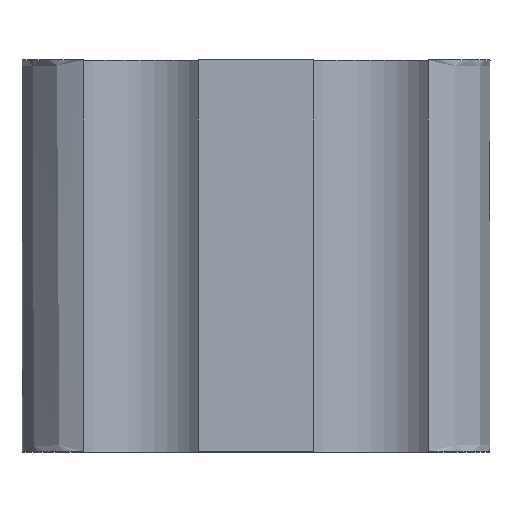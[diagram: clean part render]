
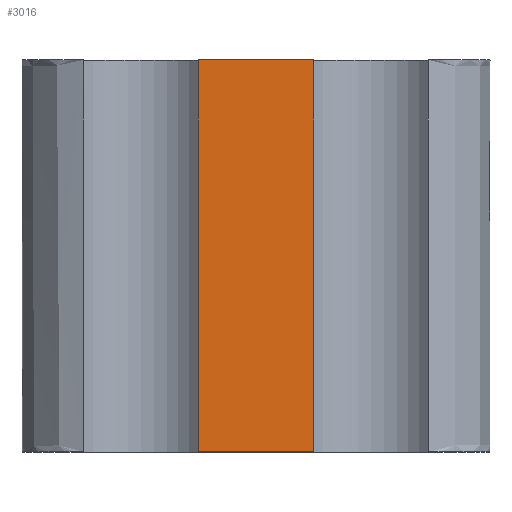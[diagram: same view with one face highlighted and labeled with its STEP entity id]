
A CAD part, top view. The second image highlights one B-rep face of the part: STEP entity #3016.
In plain terms, the highlighted planar face has unit normal (0, 0, 1).
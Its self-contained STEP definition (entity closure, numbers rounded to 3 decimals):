
#1904 = PLANE('',#1905);
#1905 = AXIS2_PLACEMENT_3D('',#1906,#1907,#1908);
#1906 = CARTESIAN_POINT('',(-21.978,0.,
    -32.23));
#1907 = DIRECTION('',(0.,-1.,0.));
#1908 = DIRECTION('',(-0.,0.,1.));
#1974 = PLANE('',#1975);
#1975 = AXIS2_PLACEMENT_3D('',#1976,#1977,#1978);
#1976 = CARTESIAN_POINT('',(-21.978,-15.,-32.23));
#1977 = DIRECTION('',(0.,1.,0.));
#1978 = DIRECTION('',(0.,0.,-1.));
#2346 = CYLINDRICAL_SURFACE('',#2347,2.85);
#2347 = AXIS2_PLACEMENT_3D('',#2348,#2349,#2350);
#2348 = CARTESIAN_POINT('',(-26.36,-7.5,-30.833));
#2349 = DIRECTION('',(0.,-1.,0.));
#2350 = DIRECTION('',(0.,0.,1.));
#2640 = CYLINDRICAL_SURFACE('',#2641,2.85);
#2641 = AXIS2_PLACEMENT_3D('',#2642,#2643,#2644);
#2642 = CARTESIAN_POINT('',(-17.56,-7.5,-30.833));
#2643 = DIRECTION('',(0.,-1.,0.));
#2644 = DIRECTION('',(0.,0.,1.));
#2817 = EDGE_CURVE('',#2818,#2820,#2822,.T.);
#2818 = VERTEX_POINT('',#2819);
#2819 = CARTESIAN_POINT('',(-24.172,0.,
    -29.007));
#2820 = VERTEX_POINT('',#2821);
#2821 = CARTESIAN_POINT('',(-19.749,0.,
    -29.007));
#2822 = SURFACE_CURVE('',#2823,(#2827,#2834),.PCURVE_S1.);
#2823 = LINE('',#2824,#2825);
#2824 = CARTESIAN_POINT('',(-24.172,0.,
    -29.007));
#2825 = VECTOR('',#2826,1.);
#2826 = DIRECTION('',(1.,0.,0.));
#2827 = PCURVE('',#1904,#2828);
#2828 = DEFINITIONAL_REPRESENTATION('',(#2829),#2833);
#2829 = LINE('',#2830,#2831);
#2830 = CARTESIAN_POINT('',(3.222,2.194));
#2831 = VECTOR('',#2832,1.);
#2832 = DIRECTION('',(0.,-1.));
#2833 = ( GEOMETRIC_REPRESENTATION_CONTEXT(2) 
PARAMETRIC_REPRESENTATION_CONTEXT() REPRESENTATION_CONTEXT('2D SPACE',''
  ) );
#2834 = PCURVE('',#2835,#2840);
#2835 = PLANE('',#2836);
#2836 = AXIS2_PLACEMENT_3D('',#2837,#2838,#2839);
#2837 = CARTESIAN_POINT('',(-21.96,-7.5,-29.007));
#2838 = DIRECTION('',(0.,0.,1.));
#2839 = DIRECTION('',(0.,1.,0.));
#2840 = DEFINITIONAL_REPRESENTATION('',(#2841),#2845);
#2841 = LINE('',#2842,#2843);
#2842 = CARTESIAN_POINT('',(7.5,2.212));
#2843 = VECTOR('',#2844,1.);
#2844 = DIRECTION('',(0.,-1.));
#2845 = ( GEOMETRIC_REPRESENTATION_CONTEXT(2) 
PARAMETRIC_REPRESENTATION_CONTEXT() REPRESENTATION_CONTEXT('2D SPACE',''
  ) );
#2967 = VERTEX_POINT('',#2968);
#2968 = CARTESIAN_POINT('',(-19.749,-15.,-29.007));
#2994 = EDGE_CURVE('',#2820,#2967,#2995,.T.);
#2995 = SURFACE_CURVE('',#2996,(#3000,#3007),.PCURVE_S1.);
#2996 = LINE('',#2997,#2998);
#2997 = CARTESIAN_POINT('',(-19.749,0.,
    -29.007));
#2998 = VECTOR('',#2999,1.);
#2999 = DIRECTION('',(0.,-1.,0.));
#3000 = PCURVE('',#2640,#3001);
#3001 = DEFINITIONAL_REPRESENTATION('',(#3002),#3006);
#3002 = LINE('',#3003,#3004);
#3003 = CARTESIAN_POINT('',(0.875,-7.5));
#3004 = VECTOR('',#3005,1.);
#3005 = DIRECTION('',(0.,1.));
#3006 = ( GEOMETRIC_REPRESENTATION_CONTEXT(2) 
PARAMETRIC_REPRESENTATION_CONTEXT() REPRESENTATION_CONTEXT('2D SPACE',''
  ) );
#3007 = PCURVE('',#2835,#3008);
#3008 = DEFINITIONAL_REPRESENTATION('',(#3009),#3013);
#3009 = LINE('',#3010,#3011);
#3010 = CARTESIAN_POINT('',(7.5,-2.212));
#3011 = VECTOR('',#3012,1.);
#3012 = DIRECTION('',(-1.,0.));
#3013 = ( GEOMETRIC_REPRESENTATION_CONTEXT(2) 
PARAMETRIC_REPRESENTATION_CONTEXT() REPRESENTATION_CONTEXT('2D SPACE',''
  ) );
#3016 = ADVANCED_FACE('',(#3017),#2835,.T.);
#3017 = FACE_BOUND('',#3018,.T.);
#3018 = EDGE_LOOP('',(#3019,#3042,#3043,#3044));
#3019 = ORIENTED_EDGE('',*,*,#3020,.T.);
#3020 = EDGE_CURVE('',#3021,#2967,#3023,.T.);
#3021 = VERTEX_POINT('',#3022);
#3022 = CARTESIAN_POINT('',(-24.172,-15.,-29.007));
#3023 = SURFACE_CURVE('',#3024,(#3028,#3035),.PCURVE_S1.);
#3024 = LINE('',#3025,#3026);
#3025 = CARTESIAN_POINT('',(-24.172,-15.,-29.007));
#3026 = VECTOR('',#3027,1.);
#3027 = DIRECTION('',(1.,0.,0.));
#3028 = PCURVE('',#2835,#3029);
#3029 = DEFINITIONAL_REPRESENTATION('',(#3030),#3034);
#3030 = LINE('',#3031,#3032);
#3031 = CARTESIAN_POINT('',(-7.5,2.212));
#3032 = VECTOR('',#3033,1.);
#3033 = DIRECTION('',(0.,-1.));
#3034 = ( GEOMETRIC_REPRESENTATION_CONTEXT(2) 
PARAMETRIC_REPRESENTATION_CONTEXT() REPRESENTATION_CONTEXT('2D SPACE',''
  ) );
#3035 = PCURVE('',#1974,#3036);
#3036 = DEFINITIONAL_REPRESENTATION('',(#3037),#3041);
#3037 = LINE('',#3038,#3039);
#3038 = CARTESIAN_POINT('',(-3.222,2.194));
#3039 = VECTOR('',#3040,1.);
#3040 = DIRECTION('',(0.,-1.));
#3041 = ( GEOMETRIC_REPRESENTATION_CONTEXT(2) 
PARAMETRIC_REPRESENTATION_CONTEXT() REPRESENTATION_CONTEXT('2D SPACE',''
  ) );
#3042 = ORIENTED_EDGE('',*,*,#2994,.F.);
#3043 = ORIENTED_EDGE('',*,*,#2817,.F.);
#3044 = ORIENTED_EDGE('',*,*,#3045,.T.);
#3045 = EDGE_CURVE('',#2818,#3021,#3046,.T.);
#3046 = SURFACE_CURVE('',#3047,(#3051,#3058),.PCURVE_S1.);
#3047 = LINE('',#3048,#3049);
#3048 = CARTESIAN_POINT('',(-24.172,0.,
    -29.007));
#3049 = VECTOR('',#3050,1.);
#3050 = DIRECTION('',(0.,-1.,0.));
#3051 = PCURVE('',#2835,#3052);
#3052 = DEFINITIONAL_REPRESENTATION('',(#3053),#3057);
#3053 = LINE('',#3054,#3055);
#3054 = CARTESIAN_POINT('',(7.5,2.212));
#3055 = VECTOR('',#3056,1.);
#3056 = DIRECTION('',(-1.,0.));
#3057 = ( GEOMETRIC_REPRESENTATION_CONTEXT(2) 
PARAMETRIC_REPRESENTATION_CONTEXT() REPRESENTATION_CONTEXT('2D SPACE',''
  ) );
#3058 = PCURVE('',#2346,#3059);
#3059 = DEFINITIONAL_REPRESENTATION('',(#3060),#3064);
#3060 = LINE('',#3061,#3062);
#3061 = CARTESIAN_POINT('',(5.408,-7.5));
#3062 = VECTOR('',#3063,1.);
#3063 = DIRECTION('',(0.,1.));
#3064 = ( GEOMETRIC_REPRESENTATION_CONTEXT(2) 
PARAMETRIC_REPRESENTATION_CONTEXT() REPRESENTATION_CONTEXT('2D SPACE',''
  ) );
